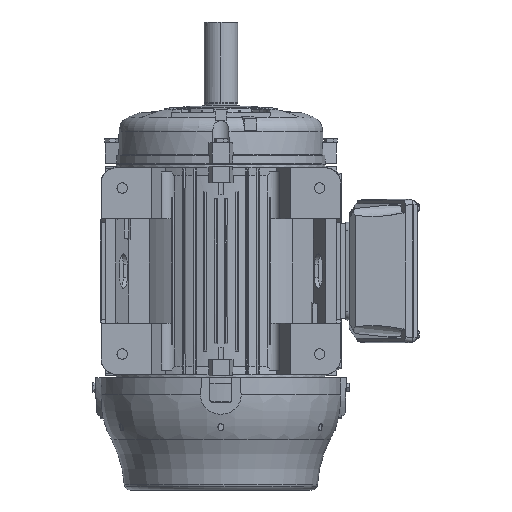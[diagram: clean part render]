
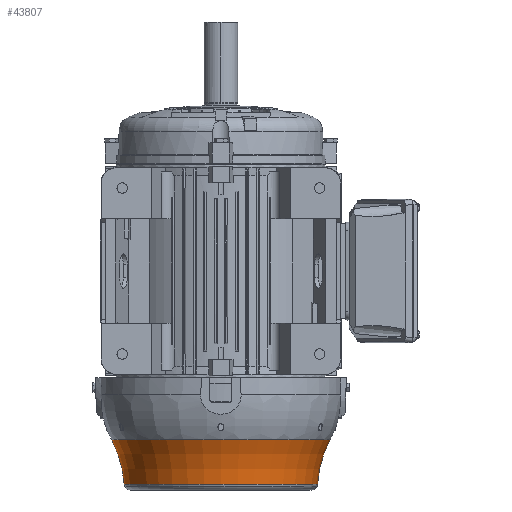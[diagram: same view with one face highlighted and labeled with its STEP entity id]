
A CAD part, front view. The second image highlights one B-rep face of the part: STEP entity #43807.
In plain terms, the highlighted toroidal (fillet/blend) face has major radius 333.581 mm and minor radius 178.663 mm.
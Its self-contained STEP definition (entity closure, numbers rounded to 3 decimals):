
#13047 = CARTESIAN_POINT ( 'NONE',  ( 155.304, 0., -342.484 ) ) ;
#13048 = CARTESIAN_POINT ( 'NONE',  ( -155.304, 0., -342.484 ) ) ;
#13109 = DIRECTION ( 'NONE',  ( -1., 0., 0. ) ) ;
#13111 = DIRECTION ( 'NONE',  ( 0., 0., -1. ) ) ;
#13112 = AXIS2_PLACEMENT_3D ( 'NONE', #13117, #13111, #13109 ) ;
#13117 = CARTESIAN_POINT ( 'NONE',  ( 0., 0., -354.228 ) ) ;
#13119 = TOROIDAL_SURFACE ( 'NONE', #13112, 333.581, 178.663 ) ;
#13121 = FACE_OUTER_BOUND ( 'NONE', #43808, .T. ) ;
#13241 = CARTESIAN_POINT ( 'NONE',  ( 0., 0., -342.484 ) ) ;
#13294 = DIRECTION ( 'NONE',  ( 0., 0., -1. ) ) ;
#13296 = DIRECTION ( 'NONE',  ( 0., -1., 0. ) ) ;
#13298 = CARTESIAN_POINT ( 'NONE',  ( -333.581, 0., -354.228 ) ) ;
#13299 = AXIS2_PLACEMENT_3D ( 'NONE', #13298, #13296, #13294 ) ;
#13301 = CIRCLE ( 'NONE', #13299, 178.663 ) ;
#13306 = CARTESIAN_POINT ( 'NONE',  ( -175.502, 0., -270.973 ) ) ;
#13308 = DIRECTION ( 'NONE',  ( -1., 0., 0. ) ) ;
#13310 = DIRECTION ( 'NONE',  ( 0., 0., -1. ) ) ;
#13311 = CARTESIAN_POINT ( 'NONE',  ( 0., 0., -270.973 ) ) ;
#13313 = AXIS2_PLACEMENT_3D ( 'NONE', #13311, #13310, #13308 ) ;
#13315 = CIRCLE ( 'NONE', #13313, 175.502 ) ;
#13317 = CARTESIAN_POINT ( 'NONE',  ( 175.502, 0., -270.973 ) ) ;
#13319 = DIRECTION ( 'NONE',  ( -1., 0., 0. ) ) ;
#13321 = DIRECTION ( 'NONE',  ( 0., 1., 0. ) ) ;
#13323 = AXIS2_PLACEMENT_3D ( 'NONE', #13335, #13321, #13319 ) ;
#13325 = CIRCLE ( 'NONE', #13323, 178.663 ) ;
#13328 = DIRECTION ( 'NONE',  ( -1., 0., 0. ) ) ;
#13330 = DIRECTION ( 'NONE',  ( 0., 0., -1. ) ) ;
#13332 = AXIS2_PLACEMENT_3D ( 'NONE', #13241, #13330, #13328 ) ;
#13334 = CIRCLE ( 'NONE', #13332, 155.304 ) ;
#13335 = CARTESIAN_POINT ( 'NONE',  ( 333.581, 0., -354.228 ) ) ;
#43793 = VERTEX_POINT ( 'NONE', #13048 ) ;
#43795 = VERTEX_POINT ( 'NONE', #13047 ) ;
#43807 = ADVANCED_FACE ( 'NONE', ( #13121 ), #13119, .F. ) ;
#43808 = EDGE_LOOP ( 'NONE', ( #43859, #43861, #43865, #43868 ) ) ;
#43859 = ORIENTED_EDGE ( 'NONE', *, *, #43860, .F. ) ;
#43860 = EDGE_CURVE ( 'NONE', #43795, #43793, #13334, .T. ) ;
#43861 = ORIENTED_EDGE ( 'NONE', *, *, #43863, .T. ) ;
#43863 = EDGE_CURVE ( 'NONE', #43795, #43864, #13325, .T. ) ;
#43864 = VERTEX_POINT ( 'NONE', #13317 ) ;
#43865 = ORIENTED_EDGE ( 'NONE', *, *, #43866, .T. ) ;
#43866 = EDGE_CURVE ( 'NONE', #43864, #43867, #13315, .T. ) ;
#43867 = VERTEX_POINT ( 'NONE', #13306 ) ;
#43868 = ORIENTED_EDGE ( 'NONE', *, *, #43869, .F. ) ;
#43869 = EDGE_CURVE ( 'NONE', #43793, #43867, #13301, .T. ) ;
